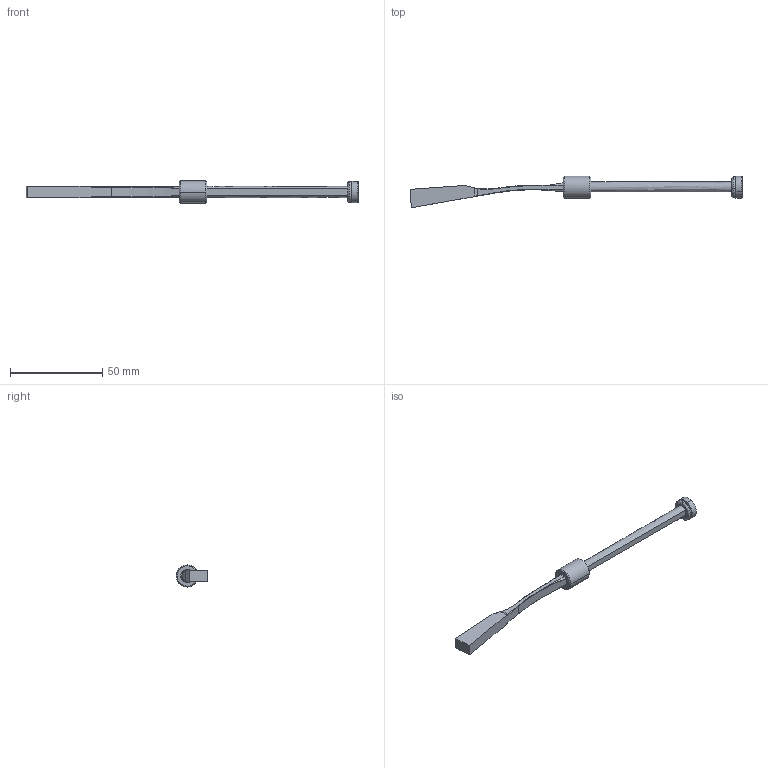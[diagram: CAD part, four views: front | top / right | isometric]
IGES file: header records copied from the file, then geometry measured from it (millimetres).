
Start section: START RECORD GO HERE.
Global section: file name: pw060630_ejection.igs; native system: DASSAULT SYSTEMES CATIA V5 R20 - www.3ds.com; preprocessor: CATIA Version 5 Release 20 ; author: Utente; organization: NB04-ASUS; date: 20201108.134918; units: millimetre
Bounding box: 179.5 x 17.05 x 12 mm (x, y, z)
Surface area: 5865.7 mm2 (no closed solid volume)
Topology: 0 solids, 0 shells, 104 faces, 463 edges, 459 vertices
Faces by surface type: revolution 70, plane 30, bspline 4
